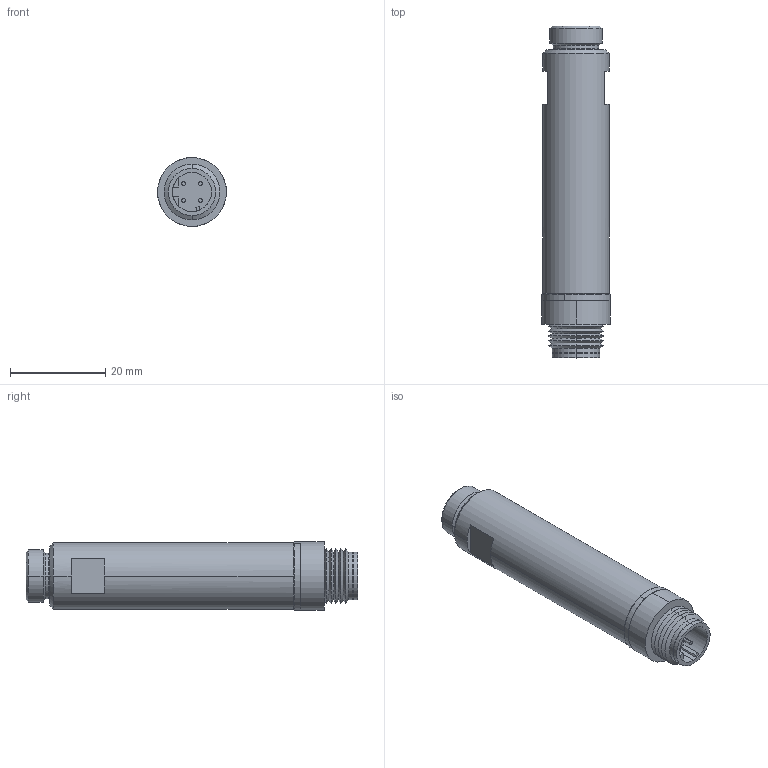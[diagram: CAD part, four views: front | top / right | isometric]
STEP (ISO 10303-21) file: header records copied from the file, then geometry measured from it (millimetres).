
FILE_DESCRIPTION((''),'2;1');
FILE_NAME('1655306_SW0001','2016-06-30T',('alessandro.daneluzzi'),(''),'PRO/ENGINEER BY PARAMETRIC TECHNOLOGY CORPORATION, 2015030','PRO/ENGINEER BY PARAMETRIC TECHNOLOGY CORPORATION, 2015030','');
FILE_SCHEMA(('CONFIG_CONTROL_DESIGN'));
Length unit declared in the file: millimetre
Products named in the file (1): 1655306_SW0001
Bounding box: 14.5 x 69.87 x 14.5 mm (x, y, z)
Surface area: 9519.7 mm2 (no closed solid volume)
Topology: 0 solids, 20 shells, 694 faces, 2108 edges, 1398 vertices
Faces by surface type: plane 426, cylinder 169, cone 38, extrusion 36, torus 16, sphere 7, bspline 2
Entity records: 25508 total; most frequent: CARTESIAN_POINT 6727, DIRECTION 3831, ORIENTED_EDGE 3716, EDGE_CURVE 2101, VECTOR 1519, LINE 1483, VERTEX_POINT 1398, AXIS2_PLACEMENT_3D 1156
